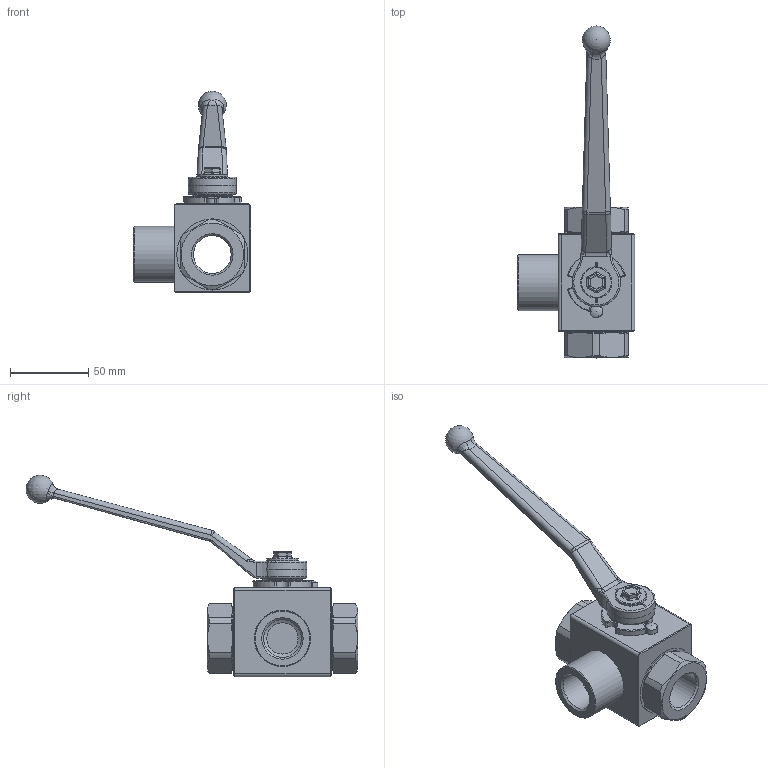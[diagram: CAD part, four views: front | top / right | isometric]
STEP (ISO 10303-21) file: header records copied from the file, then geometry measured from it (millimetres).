
FILE_DESCRIPTION( ( 'Unknown' ), '1' );
FILE_NAME( 'H:/PISTER/3D-MODELLE/BK3 stp/BK3 DN20 G3_4.stp', 'Unknown', ( 'Unknown' ), ( 'Unknown' ), 'PSStep 14.0', 'Unknown', ' ' );
FILE_SCHEMA( ( 'AUTOMOTIVE_DESIGN { 1 0 10303 214 1 1 1 1 }' ) );
Length unit declared in the file: millimetre
Products named in the file (11): Assem1; 10-025-001; 03-020-001-oa3; 04-020-100-oa4; 06-020-146-oa9; 09-14-001; 58-28740-13-oa10; Griff_SW14; 58-0933-147; 01-020-026-oa11; 04-020-052-oa12
Assembly tree (10 placements, depth 2):
  Assem1
    10-025-001
    03-020-001-oa3
    04-020-100-oa4
    06-020-146-oa9
    09-14-001
    58-28740-13-oa10
    Griff_SW14
    58-0933-147
    01-020-026-oa11
    04-020-052-oa12
Bounding box: 75 x 212.13 x 128.9 mm (x, y, z)
Volume: 97127.1 mm3; surface area: 61672.1 mm2
Topology: 10 solids, 10 shells, 376 faces, 945 edges, 578 vertices
Faces by surface type: plane 128, cylinder 127, torus 40, bspline 36, cone 31, sphere 14
Full cylindrical faces by diameter (mm): 5 x1, 6 x1, 6.5 x1, 7.98 x1, 20 x4, 20.2 x1, 24.117 x2, 24.12 x2, 25 x1, 36 x1, 36.1 x1, 38.3 x2, 41 x2, 45.5 x2
Entity records: 15604 total; most frequent: CARTESIAN_POINT 3943, DIRECTION 1805, ORIENTED_EDGE 1710, EDGE_CURVE 855, AXIS2_PLACEMENT_3D 739, VERTEX_POINT 554, EDGE_LOOP 450, FACE_OUTER_BOUND 407
